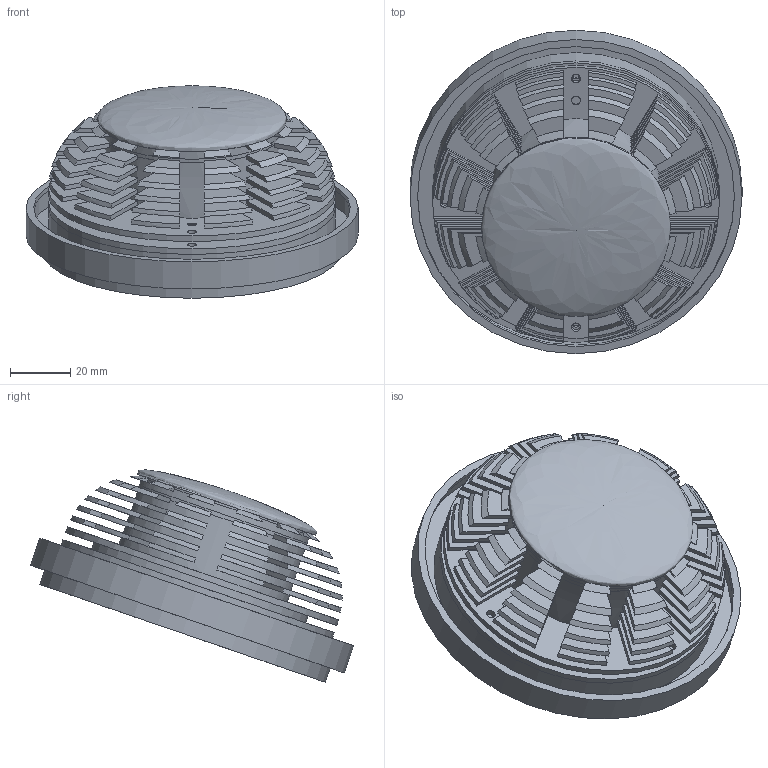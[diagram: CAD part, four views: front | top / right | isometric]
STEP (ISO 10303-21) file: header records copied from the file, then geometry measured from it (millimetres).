
FILE_DESCRIPTION(/* description */ (''),/* implementation_level */ '2;1');
FILE_NAME(/* name */ 'C:/Users/elena/Desktop/LF-111_P30.step',/* time_stamp */ '2020-06-24T12:23:13+02:00',/* author */ (''),/* organization */ (''),/* preprocessor_version */ 'ST-DEVELOPER v18.1',/* originating_system */ 'Autodesk Translation Framework v9.3.0.1241',/* authorisation */ '');
FILE_SCHEMA (('AUTOMOTIVE_DESIGN { 1 0 10303 214 3 1 1 }'));
Length unit declared in the file: millimetre
Products named in the file (2): (Unsaved); Component
Assembly tree (1 placements, depth 2):
  (Unsaved)
    Component
Bounding box: 110 x 107.13 x 70.4 mm (x, y, z)
Volume: 194959.3 mm3; surface area: 99401.7 mm2
Topology: 3 solids, 268 shells, 1134 faces, 2559 edges, 1662 vertices
Faces by surface type: plane 655, bspline 452, cylinder 25, cone 2
Full cylindrical faces by diameter (mm): 3 x12, 58.1 x1, 59 x1, 75 x1, 82.4 x1, 92 x2, 95 x3, 100 x1, 105 x1, 108 x1, 110 x1
Entity records: 112276 total; most frequent: CARTESIAN_POINT 88956, DIRECTION 4608, ORIENTED_EDGE 4202, EDGE_CURVE 2562, AXIS2_PLACEMENT_3D 1874, VERTEX_POINT 1666, EDGE_LOOP 1207, FACE_OUTER_BOUND 1134
